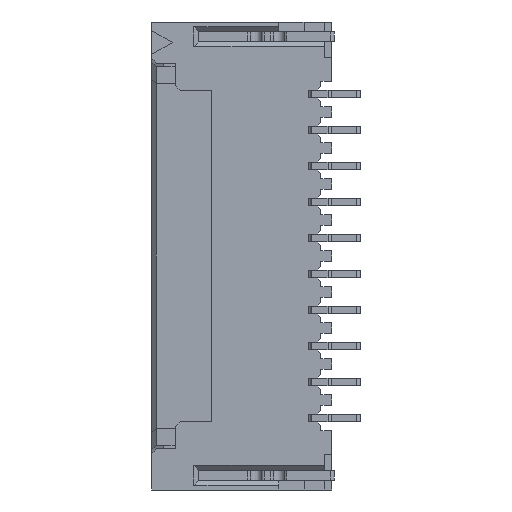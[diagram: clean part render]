
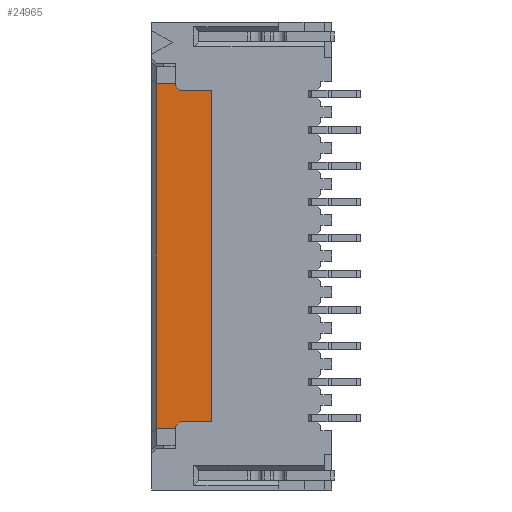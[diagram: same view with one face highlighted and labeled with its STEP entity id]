
A CAD part, left-side view. The second image highlights one B-rep face of the part: STEP entity #24965.
In plain terms, the highlighted planar face has unit normal (-1, 0, 0).
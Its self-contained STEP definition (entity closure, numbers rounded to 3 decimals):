
#1036 = DIRECTION ( 'NONE',  ( 0., 1., 0. ) ) ;
#1827 = ORIENTED_EDGE ( 'NONE', *, *, #26677, .T. ) ;
#2028 = PLANE ( 'NONE',  #22388 ) ;
#2351 = CARTESIAN_POINT ( 'NONE',  ( 3.846, -14.192, -4.17 ) ) ;
#2448 = ORIENTED_EDGE ( 'NONE', *, *, #18887, .F. ) ;
#3569 = CARTESIAN_POINT ( 'NONE',  ( 3.846, 3.979, -10.17 ) ) ;
#4380 = DIRECTION ( 'NONE',  ( 0., 0., -1. ) ) ;
#4407 = DIRECTION ( 'NONE',  ( 1., 0., 0. ) ) ;
#5520 = ORIENTED_EDGE ( 'NONE', *, *, #28649, .T. ) ;
#8754 = LINE ( 'NONE', #18556, #30067 ) ;
#8986 = VERTEX_POINT ( 'NONE', #21380 ) ;
#9147 = CARTESIAN_POINT ( 'NONE',  ( 3.846, 3.979, -4.17 ) ) ;
#9289 = VERTEX_POINT ( 'NONE', #18351 ) ;
#12831 = VECTOR ( 'NONE', #28157, 1000. ) ;
#14078 = DIRECTION ( 'NONE',  ( 0., 1., 0. ) ) ;
#15566 = VERTEX_POINT ( 'NONE', #3569 ) ;
#16991 = VERTEX_POINT ( 'NONE', #18942 ) ;
#18128 = CARTESIAN_POINT ( 'NONE',  ( 3.846, -14.192, -10.17 ) ) ;
#18338 = CARTESIAN_POINT ( 'NONE',  ( 3.846, -1.371, -4.17 ) ) ;
#18351 = CARTESIAN_POINT ( 'NONE',  ( 3.846, -1.371, -10.17 ) ) ;
#18556 = CARTESIAN_POINT ( 'NONE',  ( 3.846, -14.192, 4.17 ) ) ;
#18887 = EDGE_CURVE ( 'NONE', #9289, #15566, #30496, .T. ) ;
#18942 = CARTESIAN_POINT ( 'NONE',  ( 3.846, 3.979, 4.17 ) ) ;
#19303 = FACE_OUTER_BOUND ( 'NONE', #23579, .T. ) ;
#20705 = LINE ( 'NONE', #18338, #12831 ) ;
#21380 = CARTESIAN_POINT ( 'NONE',  ( 3.846, -1.371, 4.17 ) ) ;
#22388 = AXIS2_PLACEMENT_3D ( 'NONE', #2351, #4407, #14078 ) ;
#23579 = EDGE_LOOP ( 'NONE', ( #25795, #2448, #5520, #1827 ) ) ;
#24781 = VECTOR ( 'NONE', #4380, 1000. ) ;
#24965 = ADVANCED_FACE ( 'NONE', ( #19303 ), #2028, .F. ) ;
#25795 = ORIENTED_EDGE ( 'NONE', *, *, #29723, .T. ) ;
#25944 = LINE ( 'NONE', #9147, #24781 ) ;
#26677 = EDGE_CURVE ( 'NONE', #8986, #16991, #8754, .T. ) ;
#28078 = DIRECTION ( 'NONE',  ( 0., 1., 0. ) ) ;
#28157 = DIRECTION ( 'NONE',  ( 0., 0., 1. ) ) ;
#28273 = VECTOR ( 'NONE', #1036, 1000. ) ;
#28649 = EDGE_CURVE ( 'NONE', #9289, #8986, #20705, .T. ) ;
#29723 = EDGE_CURVE ( 'NONE', #16991, #15566, #25944, .T. ) ;
#30067 = VECTOR ( 'NONE', #28078, 1000. ) ;
#30496 = LINE ( 'NONE', #18128, #28273 ) ;
